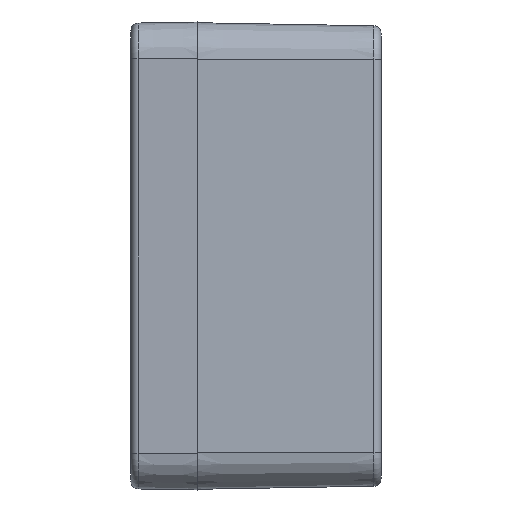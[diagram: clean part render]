
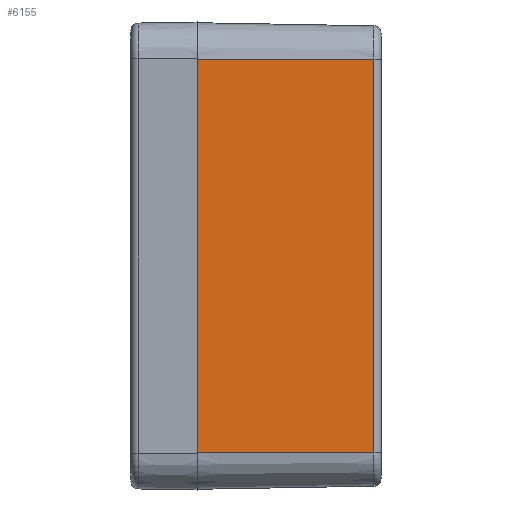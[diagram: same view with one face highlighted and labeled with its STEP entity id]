
A CAD part, left-side view. The second image highlights one B-rep face of the part: STEP entity #6155.
In plain terms, the highlighted planar face has unit normal (-1, -0.018, 0).
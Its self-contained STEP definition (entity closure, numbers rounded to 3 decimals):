
#176 = VERTEX_POINT ( 'NONE', #5869 ) ;
#381 = ORIENTED_EDGE ( 'NONE', *, *, #3639, .T. ) ;
#588 = DIRECTION ( 'NONE',  ( -0.017, 1., 0. ) ) ;
#608 = CARTESIAN_POINT ( 'NONE',  ( -48.9, 0., 26.9 ) ) ;
#661 = ORIENTED_EDGE ( 'NONE', *, *, #6750, .F. ) ;
#710 = VERTEX_POINT ( 'NONE', #7438 ) ;
#1054 = DIRECTION ( 'NONE',  ( 0.017, -1., 0. ) ) ;
#1093 = PLANE ( 'NONE',  #4880 ) ;
#1234 = DIRECTION ( 'NONE',  ( 0., 0., 1. ) ) ;
#1370 = VECTOR ( 'NONE', #1234, 1000. ) ;
#1495 = EDGE_CURVE ( 'NONE', #710, #7283, #6559, .T. ) ;
#1709 = LINE ( 'NONE', #8233, #2402 ) ;
#1762 = CARTESIAN_POINT ( 'NONE',  ( -48.479, -24.117, 26.9 ) ) ;
#2402 = VECTOR ( 'NONE', #3797, 1000. ) ;
#3260 = DIRECTION ( 'NONE',  ( -0.017, 1., 0. ) ) ;
#3437 = FACE_OUTER_BOUND ( 'NONE', #8331, .T. ) ;
#3639 = EDGE_CURVE ( 'NONE', #5510, #710, #4458, .T. ) ;
#3797 = DIRECTION ( 'NONE',  ( 0., 0., 1. ) ) ;
#4458 = LINE ( 'NONE', #1762, #1370 ) ;
#4526 = CARTESIAN_POINT ( 'NONE',  ( -48.9, 0., 26.9 ) ) ;
#4810 = ORIENTED_EDGE ( 'NONE', *, *, #1495, .T. ) ;
#4880 = AXIS2_PLACEMENT_3D ( 'NONE', #6218, #6270, #1054 ) ;
#5222 = CARTESIAN_POINT ( 'NONE',  ( -48.479, -24.117, -26.9 ) ) ;
#5510 = VERTEX_POINT ( 'NONE', #5222 ) ;
#5866 = VECTOR ( 'NONE', #588, 1000. ) ;
#5869 = CARTESIAN_POINT ( 'NONE',  ( -48.9, 0., -26.9 ) ) ;
#5888 = LINE ( 'NONE', #8575, #5866 ) ;
#5962 = VECTOR ( 'NONE', #3260, 1000. ) ;
#6155 = ADVANCED_FACE ( 'NONE', ( #3437 ), #1093, .T. ) ;
#6218 = CARTESIAN_POINT ( 'NONE',  ( -48.9, 0., 26.9 ) ) ;
#6270 = DIRECTION ( 'NONE',  ( -1., -0.017, 0. ) ) ;
#6559 = LINE ( 'NONE', #608, #5962 ) ;
#6642 = ORIENTED_EDGE ( 'NONE', *, *, #7544, .F. ) ;
#6750 = EDGE_CURVE ( 'NONE', #5510, #176, #5888, .T. ) ;
#7283 = VERTEX_POINT ( 'NONE', #4526 ) ;
#7438 = CARTESIAN_POINT ( 'NONE',  ( -48.479, -24.117, 26.9 ) ) ;
#7544 = EDGE_CURVE ( 'NONE', #176, #7283, #1709, .T. ) ;
#8233 = CARTESIAN_POINT ( 'NONE',  ( -48.9, 0., 26.9 ) ) ;
#8331 = EDGE_LOOP ( 'NONE', ( #661, #381, #4810, #6642 ) ) ;
#8575 = CARTESIAN_POINT ( 'NONE',  ( -48.9, 0., -26.9 ) ) ;
